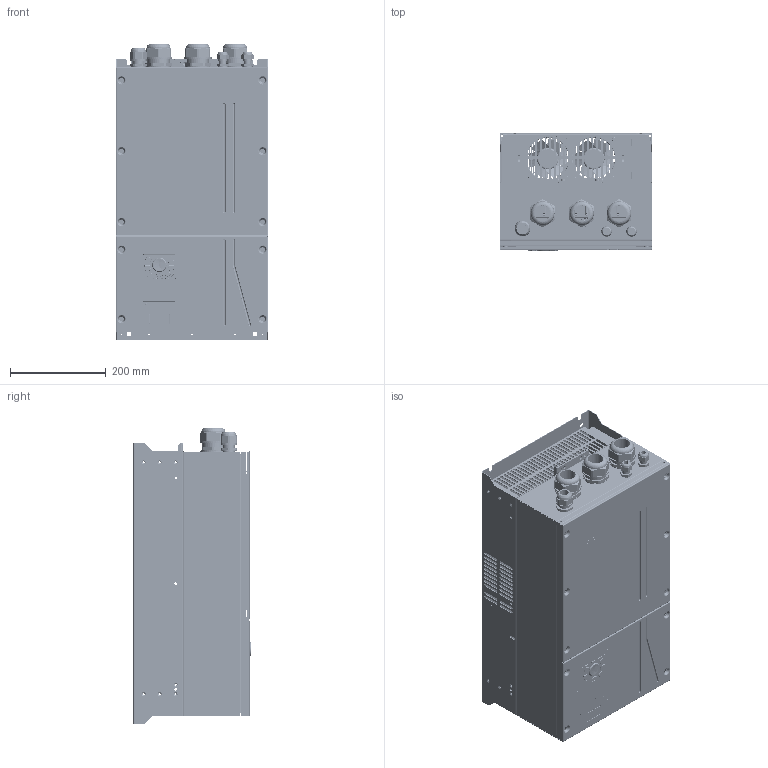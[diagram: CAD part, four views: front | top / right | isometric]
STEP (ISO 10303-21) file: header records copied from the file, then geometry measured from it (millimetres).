
FILE_DESCRIPTION((''),'2;1');
FILE_NAME('GD350-037G-45-AS_ASM_2_ASM','2025-07-31T16:01:49',('Administrator'),(''),'CREO PARAMETRIC BY PTC INC, 2019080','CREO PARAMETRIC BY PTC INC, 2019080','');
FILE_SCHEMA(('CONFIG_CONTROL_DESIGN'));
Products named in the file (66): 17003-01596-A2_1; E-IDC34-OTM1_1; 36004-00759-1_1; 36004-00759-00_ASM_1_ASM; 36004-00759_OL_ASM_1_ASM; 17003-01596-TERMINAL_ASM_1_ASM; 2-21-19-092-25MM_1; 30001-00217_1; GD350-LG20_1; GD350-MODEL_1; PCG-M16-B-BK_1; PCG-M40-25-B-1_1; PCG-M25-18-B-1_1; PA1704_CT1_A2_1; E-DIN0309-5_08MM-TA_1; E-DIN0302-5_08MM-TA_1; E-USB08-TF_1; E-IDC34-ORM1_1; E-MJ0204-R_1; E-MJ0204-100T_1; PA1704_CT1_A2_ASM_1_ASM; 0_GD350_PCB_IP54_ASM_1_ASM; 80780094_1; 86410040_1; 86410040SY_1; 86410040SY_ASM_1_ASM; GD350-037G-45-AS-ES_ASM_1_ASM; 80310625_1; 80310625_ASM_1_ASM; 80482826_1; YMD-70-1D5-SL_1; 80482826_ASM_1_ASM; 80483149_1; S-M4-ZC_1; BSO-M4-18-ZC_1; 80483149_ASM_1_ASM; 80385741_1; ZS-M5-ZC_1; 80385741_ASM_1_ASM; 61210550_ASM_1_ASM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
Assembly tree (81 placements, depth 6):
  GD350-037G-45-AS_ASM_2_ASM
    GD350-037G-45-AS-ES_ASM_1_ASM
      17003-01596-TERMINAL_ASM_1_ASM
        17003-01596-A2_1
        E-IDC34-OTM1_1
        36004-00759_OL_ASM_1_ASM
          36004-00759-00_ASM_1_ASM
            36004-00759-1_1
      2-21-19-092-25MM_1  x2
      30001-00217_1
      GD350-LG20_1
      GD350-MODEL_1
      PCG-M16-B-BK_1  x2
      PCG-M40-25-B-1_1  x3
      PCG-M25-18-B-1_1
      0_GD350_PCB_IP54_ASM_1_ASM
        PA1704_CT1_A2_ASM_1_ASM
          PA1704_CT1_A2_1
          E-DIN0309-5_08MM-TA_1
          E-DIN0302-5_08MM-TA_1
          E-USB08-TF_1
          E-IDC34-ORM1_1
          E-MJ0204-R_1
          E-MJ0204-100T_1
      80780094_1
      86410040SY_ASM_1_ASM
        86410040_1
        86410040SY_1
    41060182_ASM_1_ASM
      61210550SY_ASM_1_ASM
        61210550_ASM_1_ASM
          80310625_ASM_1_ASM
            80310625_1
          80482826_ASM_1_ASM
            80482826_1
            YMD-70-1D5-SL_1  x2
          80483149_ASM_1_ASM
            80483149_1
            S-M4-ZC_1  x8
            BSO-M4-18-ZC_1
          80385741_ASM_1_ASM
            80385741_1
            ZS-M5-ZC_1  x2
      61061737_ASM_1_ASM
        80340254_ASM_1_ASM
          80340254_1
      61761462SY_ASM_1_ASM
        61761462_ASM_1_ASM
          80410545_ASM_1_ASM
            80410545_1
      61761854SY_ASM_1_ASM
        61761854_ASM_1_ASM
          80410679_ASM_1_ASM
            80410679_1
            YMD-55-0D8-SL_1  x2
          80387242_1  x2
        61761854SY_1
    40801552_ASM_1_ASM
      61500529SY_ASM_1_ASM
        61500529_ASM_1_ASM
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Bounding box: 318 x 245.25 x 619 mm (x, y, z)
Volume: 2286245.5 mm3; surface area: 3006698.9 mm2
Topology: 52 solids, 52 shells, 10319 faces, 27431 edges, 17706 vertices
Faces by surface type: plane 7619, cylinder 1826, cone 270, bspline 244, torus 230, extrusion 62, revolution 44, sphere 24
Entity records: 267105 total; most frequent: CARTESIAN_POINT 59804, ORIENTED_EDGE 43144, DIRECTION 41606, EDGE_CURVE 21572, VECTOR 16352, LINE 16304, VERTEX_POINT 13851, AXIS2_PLACEMENT_3D 12613
